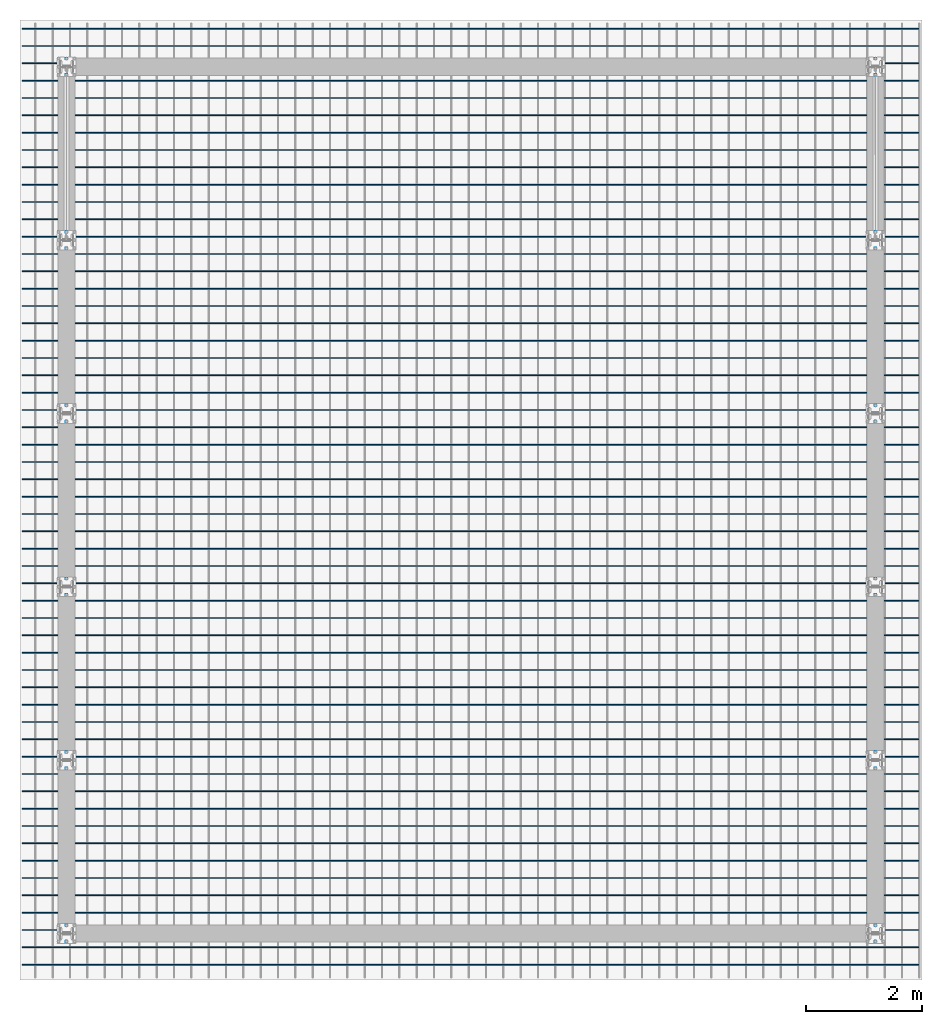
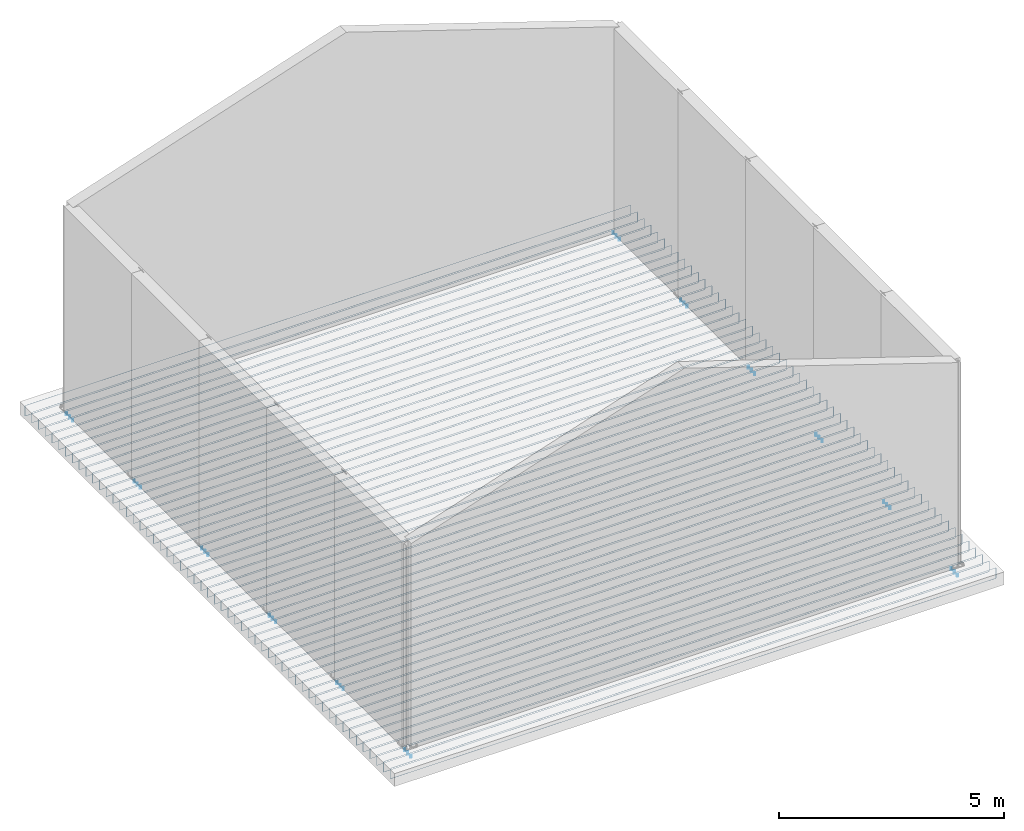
# One storey, part 5 of 29: 2 reinforcing bars.
"""IFC4 building model written with IfcOpenShell, lengths in metres."""

from ifc_helpers import new_model, entity, si_unit, origin_with_axes, place, context, project, spatial, source, transform, mapped, element, save


model = new_model("IFC4")

# Units and contexts
model_context = context("Model", 3, precision=1e-05, world=origin_with_axes())
ifc_project = project(units=[si_unit("LENGTHUNIT", "METRE"), si_unit("AREAUNIT", "SQUARE_METRE"), si_unit("VOLUMEUNIT", "CUBIC_METRE"), si_unit("MASSUNIT", "GRAM", prefix="KILO"), si_unit("TIMEUNIT", "SECOND"), si_unit("PLANEANGLEUNIT", "RADIAN"), si_unit("SOLIDANGLEUNIT", "STERADIAN"), si_unit("THERMODYNAMICTEMPERATUREUNIT", "DEGREE_CELSIUS")], contexts=[model_context])

# Site, building, storey
placement_1 = place(None, origin_with_axes())
site = spatial("IfcSite", under=ifc_project, at=placement_1, Name="Italia", CompositionType="ELEMENT")
building = spatial("IfcBuilding", under=site, at=placement_1, Name="Capannone", CompositionType="ELEMENT")
storey = spatial("IfcBuildingStorey", under=building, at=placement_1, Name="Storey 0", CompositionType="ELEMENT", Elevation=0.0)

# Reinforcing bars
shared_shape_1 = source(origin_with_axes(), model_context, "Body", "AdvancedSweptSolid", [
    entity("IfcSweptDiskSolid", entity("IfcIndexedPolyCurve", entity("IfcCartesianPointList3D", [[0.00300003, -0.14, -0.243], [0.00300002, -0.14, -0.177]]), [entity("IfcLineIndex", [1, 2])], False), 0.011),
])
placement_2 = place(placement_1, origin_with_axes())
reinforcing_bar_1_placement = place(placement_2, origin_with_axes())
element("IfcReinforcingBar", 1, at=reinforcing_bar_1_placement, inside=storey, BarLength=0.066, CrossSectionArea=0.00038013, NominalDiameter=0.022, context=model_context, shape_type="MappedRepresentation", body=[
    mapped(shared_shape_1, transform((0.0, 6.0, 0.0), x_axis=(1.0, 0.0, 0.0), y_axis=(0.0, 1.0, 0.0), z_axis=(0.0, 0.0, 1.0), scale=1.0)),
    mapped(shared_shape_1, transform((13.994, 3.28, 0.0), x_axis=(1.0, 0.0, 0.0), y_axis=(0.0, 1.0, 0.0), z_axis=(0.0, 0.0, 1.0), scale=1.0)),
    mapped(shared_shape_1, transform((13.994, 3.14, 0.0), x_axis=(1.0, 0.0, 0.0), y_axis=(0.0, 1.0, 0.0), z_axis=(0.0, 0.0, 1.0), scale=1.0)),
    mapped(shared_shape_1, transform((-0.00299999, 6.132, 0.0), x_axis=(1.0, 0.0, 0.0), y_axis=(0.0, 1.0, 0.0), z_axis=(0.0, 0.0, 1.0), scale=1.0)),
    mapped(shared_shape_1, transform((0.0, 6.28, 0.0), x_axis=(1.0, 0.0, 0.0), y_axis=(0.0, 1.0, 0.0), z_axis=(0.0, 0.0, 1.0), scale=1.0)),
    mapped(shared_shape_1, transform((0.0, 6.14, 0.0), x_axis=(1.0, 0.0, 0.0), y_axis=(0.0, 1.0, 0.0), z_axis=(0.0, 0.0, 1.0), scale=1.0)),
    mapped(shared_shape_1, transform((14.0, 3.28, 0.0), x_axis=(1.0, 0.0, 0.0), y_axis=(0.0, 1.0, 0.0), z_axis=(0.0, 0.0, 1.0), scale=1.0)),
    mapped(shared_shape_1, transform((14.0, 3.14, 0.0), x_axis=(1.0, 0.0, 0.0), y_axis=(0.0, 1.0, 0.0), z_axis=(0.0, 0.0, 1.0), scale=1.0)),
    mapped(shared_shape_1, transform((14.0, 3.0, 0.0), x_axis=(1.0, 0.0, 0.0), y_axis=(0.0, 1.0, 0.0), z_axis=(0.0, 0.0, 1.0), scale=1.0)),
    mapped(shared_shape_1, transform((13.994, 3.0, 0.0), x_axis=(1.0, 0.0, 0.0), y_axis=(0.0, 1.0, 0.0), z_axis=(0.0, 0.0, 1.0), scale=1.0)),
    mapped(shared_shape_1, transform((13.997, 3.148, 0.0), x_axis=(1.0, 0.0, 0.0), y_axis=(0.0, 1.0, 0.0), z_axis=(0.0, 0.0, 1.0), scale=1.0)),
    mapped(shared_shape_1, transform((13.997, 3.132, 0.0), x_axis=(1.0, 0.0, 0.0), y_axis=(0.0, 1.0, 0.0), z_axis=(0.0, 0.0, 1.0), scale=1.0)),
    mapped(shared_shape_1, transform((13.997, 6.148, 0.0), x_axis=(1.0, 0.0, 0.0), y_axis=(0.0, 1.0, 0.0), z_axis=(0.0, 0.0, 1.0), scale=1.0)),
    mapped(shared_shape_1, transform((13.997, 6.132, 0.0), x_axis=(1.0, 0.0, 0.0), y_axis=(0.0, 1.0, 0.0), z_axis=(0.0, 0.0, 1.0), scale=1.0)),
    mapped(shared_shape_1, transform((14.0, 6.28, 0.0), x_axis=(1.0, 0.0, 0.0), y_axis=(0.0, 1.0, 0.0), z_axis=(0.0, 0.0, 1.0), scale=1.0)),
    mapped(shared_shape_1, transform((13.994, 6.28, 0.0), x_axis=(1.0, 0.0, 0.0), y_axis=(0.0, 1.0, 0.0), z_axis=(0.0, 0.0, 1.0), scale=1.0)),
    mapped(shared_shape_1, transform((13.994, 6.14, 0.0), x_axis=(1.0, 0.0, 0.0), y_axis=(0.0, 1.0, 0.0), z_axis=(0.0, 0.0, 1.0), scale=1.0)),
    mapped(shared_shape_1, transform((13.994, 6.0, 0.0), x_axis=(1.0, 0.0, 0.0), y_axis=(0.0, 1.0, 0.0), z_axis=(0.0, 0.0, 1.0), scale=1.0)),
    mapped(shared_shape_1, transform((-0.00599998, 6.14, 0.0), x_axis=(1.0, 0.0, 0.0), y_axis=(0.0, 1.0, 0.0), z_axis=(0.0, 0.0, 1.0), scale=1.0)),
    mapped(shared_shape_1, transform((-0.00599998, 6.0, 0.0), x_axis=(1.0, 0.0, 0.0), y_axis=(0.0, 1.0, 0.0), z_axis=(0.0, 0.0, 1.0), scale=1.0)),
    mapped(shared_shape_1, transform((-0.00299999, 6.148, 0.0), x_axis=(1.0, 0.0, 0.0), y_axis=(0.0, 1.0, 0.0), z_axis=(0.0, 0.0, 1.0), scale=1.0)),
    mapped(shared_shape_1, transform((14.0, 6.14, 0.0), x_axis=(1.0, 0.0, 0.0), y_axis=(0.0, 1.0, 0.0), z_axis=(0.0, 0.0, 1.0), scale=1.0)),
    mapped(shared_shape_1, transform((14.0, 6.0, 0.0), x_axis=(1.0, 0.0, 0.0), y_axis=(0.0, 1.0, 0.0), z_axis=(0.0, 0.0, 1.0), scale=1.0)),
    mapped(shared_shape_1, transform((-0.00599998, 6.28, 0.0), x_axis=(1.0, 0.0, 0.0), y_axis=(0.0, 1.0, 0.0), z_axis=(0.0, 0.0, 1.0), scale=1.0)),
    mapped(shared_shape_1, transform((14.0, 0.0, 0.0), x_axis=(1.0, 0.0, 0.0), y_axis=(0.0, 1.0, 0.0), z_axis=(0.0, 0.0, 1.0), scale=1.0)),
    mapped(shared_shape_1, transform((-0.00599998, 0.28, 0.0), x_axis=(1.0, 0.0, 0.0), y_axis=(0.0, 1.0, 0.0), z_axis=(0.0, 0.0, 1.0), scale=1.0)),
    mapped(shared_shape_1, transform((-0.00599998, 0.14, 0.0), x_axis=(1.0, 0.0, 0.0), y_axis=(0.0, 1.0, 0.0), z_axis=(0.0, 0.0, 1.0), scale=1.0)),
    mapped(shared_shape_1, transform((13.997, 0.132, 0.0), x_axis=(1.0, 0.0, 0.0), y_axis=(0.0, 1.0, 0.0), z_axis=(0.0, 0.0, 1.0), scale=1.0)),
    mapped(shared_shape_1, transform((14.0, 0.28, 0.0), x_axis=(1.0, 0.0, 0.0), y_axis=(0.0, 1.0, 0.0), z_axis=(0.0, 0.0, 1.0), scale=1.0)),
    mapped(shared_shape_1, transform((14.0, 0.14, 0.0), x_axis=(1.0, 0.0, 0.0), y_axis=(0.0, 1.0, 0.0), z_axis=(0.0, 0.0, 1.0), scale=1.0)),
    mapped(shared_shape_1, transform((0.0, 0.28, 0.0), x_axis=(1.0, 0.0, 0.0), y_axis=(0.0, 1.0, 0.0), z_axis=(0.0, 0.0, 1.0), scale=1.0)),
    mapped(shared_shape_1, transform((0.0, 0.14, 0.0), x_axis=(1.0, 0.0, 0.0), y_axis=(0.0, 1.0, 0.0), z_axis=(0.0, 0.0, 1.0), scale=1.0)),
    mapped(shared_shape_1, transform((0.0, 0.0, 0.0), x_axis=(1.0, 0.0, 0.0), y_axis=(0.0, 1.0, 0.0), z_axis=(0.0, 0.0, 1.0), scale=1.0)),
    mapped(shared_shape_1, transform((-0.00599998, 0.0, 0.0), x_axis=(1.0, 0.0, 0.0), y_axis=(0.0, 1.0, 0.0), z_axis=(0.0, 0.0, 1.0), scale=1.0)),
    mapped(shared_shape_1, transform((-0.00299999, 0.148, 0.0), x_axis=(1.0, 0.0, 0.0), y_axis=(0.0, 1.0, 0.0), z_axis=(0.0, 0.0, 1.0), scale=1.0)),
    mapped(shared_shape_1, transform((-0.00299999, 0.132, 0.0), x_axis=(1.0, 0.0, 0.0), y_axis=(0.0, 1.0, 0.0), z_axis=(0.0, 0.0, 1.0), scale=1.0)),
    mapped(shared_shape_1, transform((-0.00299999, 3.148, 0.0), x_axis=(1.0, 0.0, 0.0), y_axis=(0.0, 1.0, 0.0), z_axis=(0.0, 0.0, 1.0), scale=1.0)),
    mapped(shared_shape_1, transform((-0.00299999, 3.132, 0.0), x_axis=(1.0, 0.0, 0.0), y_axis=(0.0, 1.0, 0.0), z_axis=(0.0, 0.0, 1.0), scale=1.0)),
    mapped(shared_shape_1, transform((0.0, 3.28, 0.0), x_axis=(1.0, 0.0, 0.0), y_axis=(0.0, 1.0, 0.0), z_axis=(0.0, 0.0, 1.0), scale=1.0)),
    mapped(shared_shape_1, transform((-0.00599998, 3.28, 0.0), x_axis=(1.0, 0.0, 0.0), y_axis=(0.0, 1.0, 0.0), z_axis=(0.0, 0.0, 1.0), scale=1.0)),
    mapped(shared_shape_1, transform((-0.00599998, 3.14, 0.0), x_axis=(1.0, 0.0, 0.0), y_axis=(0.0, 1.0, 0.0), z_axis=(0.0, 0.0, 1.0), scale=1.0)),
    mapped(shared_shape_1, transform((-0.00599998, 3.0, 0.0), x_axis=(1.0, 0.0, 0.0), y_axis=(0.0, 1.0, 0.0), z_axis=(0.0, 0.0, 1.0), scale=1.0)),
    mapped(shared_shape_1, transform((13.994, 0.14, 0.0), x_axis=(1.0, 0.0, 0.0), y_axis=(0.0, 1.0, 0.0), z_axis=(0.0, 0.0, 1.0), scale=1.0)),
    mapped(shared_shape_1, transform((13.994, 0.0, 0.0), x_axis=(1.0, 0.0, 0.0), y_axis=(0.0, 1.0, 0.0), z_axis=(0.0, 0.0, 1.0), scale=1.0)),
    mapped(shared_shape_1, transform((13.997, 0.148, 0.0), x_axis=(1.0, 0.0, 0.0), y_axis=(0.0, 1.0, 0.0), z_axis=(0.0, 0.0, 1.0), scale=1.0)),
    mapped(shared_shape_1, transform((0.0, 3.14, 0.0), x_axis=(1.0, 0.0, 0.0), y_axis=(0.0, 1.0, 0.0), z_axis=(0.0, 0.0, 1.0), scale=1.0)),
    mapped(shared_shape_1, transform((0.0, 3.0, 0.0), x_axis=(1.0, 0.0, 0.0), y_axis=(0.0, 1.0, 0.0), z_axis=(0.0, 0.0, 1.0), scale=1.0)),
    mapped(shared_shape_1, transform((13.994, 0.28, 0.0), x_axis=(1.0, 0.0, 0.0), y_axis=(0.0, 1.0, 0.0), z_axis=(0.0, 0.0, 1.0), scale=1.0)),
    mapped(shared_shape_1, transform((0.0, 15.0, 0.0), x_axis=(1.0, 0.0, 0.0), y_axis=(0.0, 1.0, 0.0), z_axis=(0.0, 0.0, 1.0), scale=1.0)),
    mapped(shared_shape_1, transform((13.994, 12.28, 0.0), x_axis=(1.0, 0.0, 0.0), y_axis=(0.0, 1.0, 0.0), z_axis=(0.0, 0.0, 1.0), scale=1.0)),
    mapped(shared_shape_1, transform((13.994, 12.14, 0.0), x_axis=(1.0, 0.0, 0.0), y_axis=(0.0, 1.0, 0.0), z_axis=(0.0, 0.0, 1.0), scale=1.0)),
    mapped(shared_shape_1, transform((-0.00299999, 15.132, 0.0), x_axis=(1.0, 0.0, 0.0), y_axis=(0.0, 1.0, 0.0), z_axis=(0.0, 0.0, 1.0), scale=1.0)),
    mapped(shared_shape_1, transform((0.0, 15.28, 0.0), x_axis=(1.0, 0.0, 0.0), y_axis=(0.0, 1.0, 0.0), z_axis=(0.0, 0.0, 1.0), scale=1.0)),
    mapped(shared_shape_1, transform((0.0, 15.14, 0.0), x_axis=(1.0, 0.0, 0.0), y_axis=(0.0, 1.0, 0.0), z_axis=(0.0, 0.0, 1.0), scale=1.0)),
    mapped(shared_shape_1, transform((14.0, 12.28, 0.0), x_axis=(1.0, 0.0, 0.0), y_axis=(0.0, 1.0, 0.0), z_axis=(0.0, 0.0, 1.0), scale=1.0)),
    mapped(shared_shape_1, transform((14.0, 12.14, 0.0), x_axis=(1.0, 0.0, 0.0), y_axis=(0.0, 1.0, 0.0), z_axis=(0.0, 0.0, 1.0), scale=1.0)),
    mapped(shared_shape_1, transform((14.0, 12.0, 0.0), x_axis=(1.0, 0.0, 0.0), y_axis=(0.0, 1.0, 0.0), z_axis=(0.0, 0.0, 1.0), scale=1.0)),
    mapped(shared_shape_1, transform((13.994, 12.0, 0.0), x_axis=(1.0, 0.0, 0.0), y_axis=(0.0, 1.0, 0.0), z_axis=(0.0, 0.0, 1.0), scale=1.0)),
    mapped(shared_shape_1, transform((13.997, 12.148, 0.0), x_axis=(1.0, 0.0, 0.0), y_axis=(0.0, 1.0, 0.0), z_axis=(0.0, 0.0, 1.0), scale=1.0)),
    mapped(shared_shape_1, transform((13.997, 12.132, 0.0), x_axis=(1.0, 0.0, 0.0), y_axis=(0.0, 1.0, 0.0), z_axis=(0.0, 0.0, 1.0), scale=1.0)),
    mapped(shared_shape_1, transform((13.997, 15.148, 0.0), x_axis=(1.0, 0.0, 0.0), y_axis=(0.0, 1.0, 0.0), z_axis=(0.0, 0.0, 1.0), scale=1.0)),
    mapped(shared_shape_1, transform((13.997, 15.132, 0.0), x_axis=(1.0, 0.0, 0.0), y_axis=(0.0, 1.0, 0.0), z_axis=(0.0, 0.0, 1.0), scale=1.0)),
    mapped(shared_shape_1, transform((14.0, 15.28, 0.0), x_axis=(1.0, 0.0, 0.0), y_axis=(0.0, 1.0, 0.0), z_axis=(0.0, 0.0, 1.0), scale=1.0)),
    mapped(shared_shape_1, transform((13.994, 15.28, 0.0), x_axis=(1.0, 0.0, 0.0), y_axis=(0.0, 1.0, 0.0), z_axis=(0.0, 0.0, 1.0), scale=1.0)),
    mapped(shared_shape_1, transform((13.994, 15.14, 0.0), x_axis=(1.0, 0.0, 0.0), y_axis=(0.0, 1.0, 0.0), z_axis=(0.0, 0.0, 1.0), scale=1.0)),
    mapped(shared_shape_1, transform((13.994, 15.0, 0.0), x_axis=(1.0, 0.0, 0.0), y_axis=(0.0, 1.0, 0.0), z_axis=(0.0, 0.0, 1.0), scale=1.0)),
    mapped(shared_shape_1, transform((-0.00599998, 15.14, 0.0), x_axis=(1.0, 0.0, 0.0), y_axis=(0.0, 1.0, 0.0), z_axis=(0.0, 0.0, 1.0), scale=1.0)),
    mapped(shared_shape_1, transform((-0.00599998, 15.0, 0.0), x_axis=(1.0, 0.0, 0.0), y_axis=(0.0, 1.0, 0.0), z_axis=(0.0, 0.0, 1.0), scale=1.0)),
    mapped(shared_shape_1, transform((-0.00299999, 15.148, 0.0), x_axis=(1.0, 0.0, 0.0), y_axis=(0.0, 1.0, 0.0), z_axis=(0.0, 0.0, 1.0), scale=1.0)),
    mapped(shared_shape_1, transform((14.0, 15.14, 0.0), x_axis=(1.0, 0.0, 0.0), y_axis=(0.0, 1.0, 0.0), z_axis=(0.0, 0.0, 1.0), scale=1.0)),
    mapped(shared_shape_1, transform((14.0, 15.0, 0.0), x_axis=(1.0, 0.0, 0.0), y_axis=(0.0, 1.0, 0.0), z_axis=(0.0, 0.0, 1.0), scale=1.0)),
    mapped(shared_shape_1, transform((-0.00599998, 15.28, 0.0), x_axis=(1.0, 0.0, 0.0), y_axis=(0.0, 1.0, 0.0), z_axis=(0.0, 0.0, 1.0), scale=1.0)),
    mapped(shared_shape_1, transform((14.0, 9.0, 0.0), x_axis=(1.0, 0.0, 0.0), y_axis=(0.0, 1.0, 0.0), z_axis=(0.0, 0.0, 1.0), scale=1.0)),
    mapped(shared_shape_1, transform((-0.00599998, 9.28, 0.0), x_axis=(1.0, 0.0, 0.0), y_axis=(0.0, 1.0, 0.0), z_axis=(0.0, 0.0, 1.0), scale=1.0)),
    mapped(shared_shape_1, transform((-0.00599998, 9.14, 0.0), x_axis=(1.0, 0.0, 0.0), y_axis=(0.0, 1.0, 0.0), z_axis=(0.0, 0.0, 1.0), scale=1.0)),
    mapped(shared_shape_1, transform((13.997, 9.132, 0.0), x_axis=(1.0, 0.0, 0.0), y_axis=(0.0, 1.0, 0.0), z_axis=(0.0, 0.0, 1.0), scale=1.0)),
    mapped(shared_shape_1, transform((14.0, 9.28, 0.0), x_axis=(1.0, 0.0, 0.0), y_axis=(0.0, 1.0, 0.0), z_axis=(0.0, 0.0, 1.0), scale=1.0)),
    mapped(shared_shape_1, transform((14.0, 9.14, 0.0), x_axis=(1.0, 0.0, 0.0), y_axis=(0.0, 1.0, 0.0), z_axis=(0.0, 0.0, 1.0), scale=1.0)),
    mapped(shared_shape_1, transform((0.0, 9.28, 0.0), x_axis=(1.0, 0.0, 0.0), y_axis=(0.0, 1.0, 0.0), z_axis=(0.0, 0.0, 1.0), scale=1.0)),
    mapped(shared_shape_1, transform((0.0, 9.14, 0.0), x_axis=(1.0, 0.0, 0.0), y_axis=(0.0, 1.0, 0.0), z_axis=(0.0, 0.0, 1.0), scale=1.0)),
    mapped(shared_shape_1, transform((0.0, 9.0, 0.0), x_axis=(1.0, 0.0, 0.0), y_axis=(0.0, 1.0, 0.0), z_axis=(0.0, 0.0, 1.0), scale=1.0)),
    mapped(shared_shape_1, transform((-0.00599998, 9.0, 0.0), x_axis=(1.0, 0.0, 0.0), y_axis=(0.0, 1.0, 0.0), z_axis=(0.0, 0.0, 1.0), scale=1.0)),
    mapped(shared_shape_1, transform((-0.00299999, 9.148, 0.0), x_axis=(1.0, 0.0, 0.0), y_axis=(0.0, 1.0, 0.0), z_axis=(0.0, 0.0, 1.0), scale=1.0)),
    mapped(shared_shape_1, transform((-0.00299999, 9.132, 0.0), x_axis=(1.0, 0.0, 0.0), y_axis=(0.0, 1.0, 0.0), z_axis=(0.0, 0.0, 1.0), scale=1.0)),
    mapped(shared_shape_1, transform((-0.00299999, 12.148, 0.0), x_axis=(1.0, 0.0, 0.0), y_axis=(0.0, 1.0, 0.0), z_axis=(0.0, 0.0, 1.0), scale=1.0)),
    mapped(shared_shape_1, transform((-0.00299999, 12.132, 0.0), x_axis=(1.0, 0.0, 0.0), y_axis=(0.0, 1.0, 0.0), z_axis=(0.0, 0.0, 1.0), scale=1.0)),
    mapped(shared_shape_1, transform((0.0, 12.28, 0.0), x_axis=(1.0, 0.0, 0.0), y_axis=(0.0, 1.0, 0.0), z_axis=(0.0, 0.0, 1.0), scale=1.0)),
    mapped(shared_shape_1, transform((-0.00599998, 12.28, 0.0), x_axis=(1.0, 0.0, 0.0), y_axis=(0.0, 1.0, 0.0), z_axis=(0.0, 0.0, 1.0), scale=1.0)),
    mapped(shared_shape_1, transform((-0.00599998, 12.14, 0.0), x_axis=(1.0, 0.0, 0.0), y_axis=(0.0, 1.0, 0.0), z_axis=(0.0, 0.0, 1.0), scale=1.0)),
    mapped(shared_shape_1, transform((-0.00599998, 12.0, 0.0), x_axis=(1.0, 0.0, 0.0), y_axis=(0.0, 1.0, 0.0), z_axis=(0.0, 0.0, 1.0), scale=1.0)),
    mapped(shared_shape_1, transform((13.994, 9.14, 0.0), x_axis=(1.0, 0.0, 0.0), y_axis=(0.0, 1.0, 0.0), z_axis=(0.0, 0.0, 1.0), scale=1.0)),
    mapped(shared_shape_1, transform((13.994, 9.0, 0.0), x_axis=(1.0, 0.0, 0.0), y_axis=(0.0, 1.0, 0.0), z_axis=(0.0, 0.0, 1.0), scale=1.0)),
    mapped(shared_shape_1, transform((13.997, 9.148, 0.0), x_axis=(1.0, 0.0, 0.0), y_axis=(0.0, 1.0, 0.0), z_axis=(0.0, 0.0, 1.0), scale=1.0)),
    mapped(shared_shape_1, transform((0.0, 12.14, 0.0), x_axis=(1.0, 0.0, 0.0), y_axis=(0.0, 1.0, 0.0), z_axis=(0.0, 0.0, 1.0), scale=1.0)),
    mapped(shared_shape_1, transform((0.0, 12.0, 0.0), x_axis=(1.0, 0.0, 0.0), y_axis=(0.0, 1.0, 0.0), z_axis=(0.0, 0.0, 1.0), scale=1.0)),
    mapped(shared_shape_1, transform((13.994, 9.28, 0.0), x_axis=(1.0, 0.0, 0.0), y_axis=(0.0, 1.0, 0.0), z_axis=(0.0, 0.0, 1.0), scale=1.0)),
])
shared_shape_2 = source(origin_with_axes(), model_context, "Body", "AdvancedSweptSolid", [
    entity("IfcSweptDiskSolid", entity("IfcIndexedPolyCurve", entity("IfcCartesianPointList3D", [[-0.763, -0.546, -0.296], [-0.763, -0.546, -0.04], [-0.762239, -0.546, -0.0361732], [-0.760071, -0.546, -0.0329289], [-0.756827, -0.546, -0.0307612], [-0.753, -0.546, -0.03], [14.741, -0.546, -0.03], [14.7448, -0.546, -0.0307612], [14.7481, -0.546, -0.0329289], [14.7502, -0.546, -0.0361732], [14.751, -0.546, -0.04], [14.751, -0.546, -0.296]]), [entity("IfcLineIndex", [1, 2]), entity("IfcLineIndex", [2, 3]), entity("IfcLineIndex", [3, 4]), entity("IfcLineIndex", [4, 5]), entity("IfcLineIndex", [5, 6]), entity("IfcLineIndex", [6, 7]), entity("IfcLineIndex", [7, 8]), entity("IfcLineIndex", [8, 9]), entity("IfcLineIndex", [9, 10]), entity("IfcLineIndex", [10, 11]), entity("IfcLineIndex", [11, 12])], False), 0.006),
])
reinforcing_bar_2_placement = place(placement_2, origin_with_axes())
element("IfcReinforcingBar", 2, at=reinforcing_bar_2_placement, inside=storey, BarLength=16.0372, CrossSectionArea=0.0001131, NominalDiameter=0.012, context=model_context, shape_type="MappedRepresentation", body=[
    mapped(shared_shape_2, transform((0.0, 9.3, 0.0), x_axis=(1.0, 0.0, 0.0), y_axis=(0.0, 1.0, 0.0), z_axis=(0.0, 0.0, 1.0), scale=1.0)),
    mapped(shared_shape_2, transform((0.0, 9.0, 0.0), x_axis=(1.0, 0.0, 0.0), y_axis=(0.0, 1.0, 0.0), z_axis=(0.0, 0.0, 1.0), scale=1.0)),
    mapped(shared_shape_2, transform((0.0, 15.9, 0.0), x_axis=(1.0, 0.0, 0.0), y_axis=(0.0, 1.0, 0.0), z_axis=(0.0, 0.0, 1.0), scale=1.0)),
    mapped(shared_shape_2, transform((0.0, 8.4, 0.0), x_axis=(1.0, 0.0, 0.0), y_axis=(0.0, 1.0, 0.0), z_axis=(0.0, 0.0, 1.0), scale=1.0)),
    mapped(shared_shape_2, transform((0.0, 16.2, 0.0), x_axis=(1.0, 0.0, 0.0), y_axis=(0.0, 1.0, 0.0), z_axis=(0.0, 0.0, 1.0), scale=1.0)),
    mapped(shared_shape_2, transform((0.0, 8.7, 0.0), x_axis=(1.0, 0.0, 0.0), y_axis=(0.0, 1.0, 0.0), z_axis=(0.0, 0.0, 1.0), scale=1.0)),
    mapped(shared_shape_2, transform((0.0, 11.4, 0.0), x_axis=(1.0, 0.0, 0.0), y_axis=(0.0, 1.0, 0.0), z_axis=(0.0, 0.0, 1.0), scale=1.0)),
    mapped(shared_shape_2, transform((0.0, 11.1, 0.0), x_axis=(1.0, 0.0, 0.0), y_axis=(0.0, 1.0, 0.0), z_axis=(0.0, 0.0, 1.0), scale=1.0)),
    mapped(shared_shape_2, transform((0.0, 9.9, 0.0), x_axis=(1.0, 0.0, 0.0), y_axis=(0.0, 1.0, 0.0), z_axis=(0.0, 0.0, 1.0), scale=1.0)),
    mapped(shared_shape_2, transform((0.0, 10.5, 0.0), x_axis=(1.0, 0.0, 0.0), y_axis=(0.0, 1.0, 0.0), z_axis=(0.0, 0.0, 1.0), scale=1.0)),
    mapped(shared_shape_2, transform((0.0, 10.2, 0.0), x_axis=(1.0, 0.0, 0.0), y_axis=(0.0, 1.0, 0.0), z_axis=(0.0, 0.0, 1.0), scale=1.0)),
    mapped(shared_shape_2, transform((0.0, 10.8, 0.0), x_axis=(1.0, 0.0, 0.0), y_axis=(0.0, 1.0, 0.0), z_axis=(0.0, 0.0, 1.0), scale=1.0)),
    mapped(shared_shape_2, transform((0.0, 9.6, 0.0), x_axis=(1.0, 0.0, 0.0), y_axis=(0.0, 1.0, 0.0), z_axis=(0.0, 0.0, 1.0), scale=1.0)),
    mapped(shared_shape_2, transform((0.0, 13.2, 0.0), x_axis=(1.0, 0.0, 0.0), y_axis=(0.0, 1.0, 0.0), z_axis=(0.0, 0.0, 1.0), scale=1.0)),
    mapped(shared_shape_2, transform((0.0, 12.0, 0.0), x_axis=(1.0, 0.0, 0.0), y_axis=(0.0, 1.0, 0.0), z_axis=(0.0, 0.0, 1.0), scale=1.0)),
    mapped(shared_shape_2, transform((0.0, 12.6, 0.0), x_axis=(1.0, 0.0, 0.0), y_axis=(0.0, 1.0, 0.0), z_axis=(0.0, 0.0, 1.0), scale=1.0)),
    mapped(shared_shape_2, transform((0.0, 12.3, 0.0), x_axis=(1.0, 0.0, 0.0), y_axis=(0.0, 1.0, 0.0), z_axis=(0.0, 0.0, 1.0), scale=1.0)),
    mapped(shared_shape_2, transform((0.0, 12.9, 0.0), x_axis=(1.0, 0.0, 0.0), y_axis=(0.0, 1.0, 0.0), z_axis=(0.0, 0.0, 1.0), scale=1.0)),
    mapped(shared_shape_2, transform((0.0, 11.7, 0.0), x_axis=(1.0, 0.0, 0.0), y_axis=(0.0, 1.0, 0.0), z_axis=(0.0, 0.0, 1.0), scale=1.0)),
    mapped(shared_shape_2, transform((0.0, 15.3, 0.0), x_axis=(1.0, 0.0, 0.0), y_axis=(0.0, 1.0, 0.0), z_axis=(0.0, 0.0, 1.0), scale=1.0)),
    mapped(shared_shape_2, transform((0.0, 14.1, 0.0), x_axis=(1.0, 0.0, 0.0), y_axis=(0.0, 1.0, 0.0), z_axis=(0.0, 0.0, 1.0), scale=1.0)),
    mapped(shared_shape_2, transform((0.0, 14.7, 0.0), x_axis=(1.0, 0.0, 0.0), y_axis=(0.0, 1.0, 0.0), z_axis=(0.0, 0.0, 1.0), scale=1.0)),
    mapped(shared_shape_2, transform((0.0, 14.4, 0.0), x_axis=(1.0, 0.0, 0.0), y_axis=(0.0, 1.0, 0.0), z_axis=(0.0, 0.0, 1.0), scale=1.0)),
    mapped(shared_shape_2, transform((0.0, 15.0, 0.0), x_axis=(1.0, 0.0, 0.0), y_axis=(0.0, 1.0, 0.0), z_axis=(0.0, 0.0, 1.0), scale=1.0)),
    mapped(shared_shape_2, transform((0.0, 13.8, 0.0), x_axis=(1.0, 0.0, 0.0), y_axis=(0.0, 1.0, 0.0), z_axis=(0.0, 0.0, 1.0), scale=1.0)),
    mapped(shared_shape_2, transform((0.0, 13.5, 0.0), x_axis=(1.0, 0.0, 0.0), y_axis=(0.0, 1.0, 0.0), z_axis=(0.0, 0.0, 1.0), scale=1.0)),
    mapped(shared_shape_2, transform((0.0, 8.1, 0.0), x_axis=(1.0, 0.0, 0.0), y_axis=(0.0, 1.0, 0.0), z_axis=(0.0, 0.0, 1.0), scale=1.0)),
    mapped(shared_shape_2, transform((0.0, 0.6, 0.0), x_axis=(1.0, 0.0, 0.0), y_axis=(0.0, 1.0, 0.0), z_axis=(0.0, 0.0, 1.0), scale=1.0)),
    mapped(shared_shape_2, transform((0.0, 0.3, 0.0), x_axis=(1.0, 0.0, 0.0), y_axis=(0.0, 1.0, 0.0), z_axis=(0.0, 0.0, 1.0), scale=1.0)),
    mapped(shared_shape_2, transform((0.0, 0.9, 0.0), x_axis=(1.0, 0.0, 0.0), y_axis=(0.0, 1.0, 0.0), z_axis=(0.0, 0.0, 1.0), scale=1.0)),
    mapped(shared_shape_2, transform((0.0, 7.8, 0.0), x_axis=(1.0, 0.0, 0.0), y_axis=(0.0, 1.0, 0.0), z_axis=(0.0, 0.0, 1.0), scale=1.0)),
    mapped(shared_shape_2, transform((0.0, 15.6, 0.0), x_axis=(1.0, 0.0, 0.0), y_axis=(0.0, 1.0, 0.0), z_axis=(0.0, 0.0, 1.0), scale=1.0)),
    mapped(shared_shape_2, transform((0.0, 2.1, 0.0), x_axis=(1.0, 0.0, 0.0), y_axis=(0.0, 1.0, 0.0), z_axis=(0.0, 0.0, 1.0), scale=1.0)),
    mapped(shared_shape_2, transform((0.0, 2.7, 0.0), x_axis=(1.0, 0.0, 0.0), y_axis=(0.0, 1.0, 0.0), z_axis=(0.0, 0.0, 1.0), scale=1.0)),
    mapped(shared_shape_2, transform((0.0, 2.4, 0.0), x_axis=(1.0, 0.0, 0.0), y_axis=(0.0, 1.0, 0.0), z_axis=(0.0, 0.0, 1.0), scale=1.0)),
    mapped(shared_shape_2, transform((0.0, 3.0, 0.0), x_axis=(1.0, 0.0, 0.0), y_axis=(0.0, 1.0, 0.0), z_axis=(0.0, 0.0, 1.0), scale=1.0)),
    mapped(shared_shape_2, transform((0.0, 1.8, 0.0), x_axis=(1.0, 0.0, 0.0), y_axis=(0.0, 1.0, 0.0), z_axis=(0.0, 0.0, 1.0), scale=1.0)),
    mapped(shared_shape_2, transform((0.0, 1.5, 0.0), x_axis=(1.0, 0.0, 0.0), y_axis=(0.0, 1.0, 0.0), z_axis=(0.0, 0.0, 1.0), scale=1.0)),
    mapped(shared_shape_2, transform((0.0, 4.2, 0.0), x_axis=(1.0, 0.0, 0.0), y_axis=(0.0, 1.0, 0.0), z_axis=(0.0, 0.0, 1.0), scale=1.0)),
    mapped(shared_shape_2, transform((0.0, 4.8, 0.0), x_axis=(1.0, 0.0, 0.0), y_axis=(0.0, 1.0, 0.0), z_axis=(0.0, 0.0, 1.0), scale=1.0)),
    mapped(shared_shape_2, transform((0.0, 4.5, 0.0), x_axis=(1.0, 0.0, 0.0), y_axis=(0.0, 1.0, 0.0), z_axis=(0.0, 0.0, 1.0), scale=1.0)),
    mapped(shared_shape_2, transform((0.0, 1.2, 0.0), x_axis=(1.0, 0.0, 0.0), y_axis=(0.0, 1.0, 0.0), z_axis=(0.0, 0.0, 1.0), scale=1.0)),
    mapped(shared_shape_2, transform((0.0, 3.9, 0.0), x_axis=(1.0, 0.0, 0.0), y_axis=(0.0, 1.0, 0.0), z_axis=(0.0, 0.0, 1.0), scale=1.0)),
    mapped(shared_shape_2, transform((0.0, 3.6, 0.0), x_axis=(1.0, 0.0, 0.0), y_axis=(0.0, 1.0, 0.0), z_axis=(0.0, 0.0, 1.0), scale=1.0)),
    mapped(shared_shape_2, transform((0.0, 6.3, 0.0), x_axis=(1.0, 0.0, 0.0), y_axis=(0.0, 1.0, 0.0), z_axis=(0.0, 0.0, 1.0), scale=1.0)),
    mapped(shared_shape_2, transform((0.0, 6.9, 0.0), x_axis=(1.0, 0.0, 0.0), y_axis=(0.0, 1.0, 0.0), z_axis=(0.0, 0.0, 1.0), scale=1.0)),
    mapped(shared_shape_2, transform((0.0, 6.6, 0.0), x_axis=(1.0, 0.0, 0.0), y_axis=(0.0, 1.0, 0.0), z_axis=(0.0, 0.0, 1.0), scale=1.0)),
    mapped(shared_shape_2, transform((0.0, 3.3, 0.0), x_axis=(1.0, 0.0, 0.0), y_axis=(0.0, 1.0, 0.0), z_axis=(0.0, 0.0, 1.0), scale=1.0)),
    mapped(shared_shape_2, transform((0.0, 6.0, 0.0), x_axis=(1.0, 0.0, 0.0), y_axis=(0.0, 1.0, 0.0), z_axis=(0.0, 0.0, 1.0), scale=1.0)),
    mapped(shared_shape_2, transform((0.0, 5.7, 0.0), x_axis=(1.0, 0.0, 0.0), y_axis=(0.0, 1.0, 0.0), z_axis=(0.0, 0.0, 1.0), scale=1.0)),
    mapped(shared_shape_2, transform((0.0, 7.62, -0.35), x_axis=(1.0, 0.0, 0.0), y_axis=(0.0, -1.0, 0.0), z_axis=(0.0, 0.0, -1.0), scale=1.0)),
    mapped(shared_shape_2, transform((0.0, 5.1, 0.0), x_axis=(1.0, 0.0, 0.0), y_axis=(0.0, 1.0, 0.0), z_axis=(0.0, 0.0, 1.0), scale=1.0)),
    mapped(shared_shape_2, transform((0.0, 7.92, -0.35), x_axis=(1.0, 0.0, 0.0), y_axis=(0.0, -1.0, 0.0), z_axis=(0.0, 0.0, -1.0), scale=1.0)),
    mapped(shared_shape_2, transform((0.0, 5.4, 0.0), x_axis=(1.0, 0.0, 0.0), y_axis=(0.0, 1.0, 0.0), z_axis=(0.0, 0.0, 1.0), scale=1.0)),
    mapped(shared_shape_2, transform((0.0, 0.0, 0.0), x_axis=(1.0, 0.0, 0.0), y_axis=(0.0, 1.0, 0.0), z_axis=(0.0, 0.0, 1.0), scale=1.0)),
    mapped(shared_shape_2, transform((0.0, 15.12, -0.35), x_axis=(1.0, 0.0, 0.0), y_axis=(0.0, -1.0, 0.0), z_axis=(0.0, 0.0, -1.0), scale=1.0)),
    mapped(shared_shape_2, transform((0.0, 9.72, -0.35), x_axis=(1.0, 0.0, 0.0), y_axis=(0.0, -1.0, 0.0), z_axis=(0.0, 0.0, -1.0), scale=1.0)),
    mapped(shared_shape_2, transform((0.0, 7.2, 0.0), x_axis=(1.0, 0.0, 0.0), y_axis=(0.0, 1.0, 0.0), z_axis=(0.0, 0.0, 1.0), scale=1.0)),
    mapped(shared_shape_2, transform((0.0, 10.02, -0.35), x_axis=(1.0, 0.0, 0.0), y_axis=(0.0, -1.0, 0.0), z_axis=(0.0, 0.0, -1.0), scale=1.0)),
    mapped(shared_shape_2, transform((0.0, 7.5, 0.0), x_axis=(1.0, 0.0, 0.0), y_axis=(0.0, 1.0, 0.0), z_axis=(0.0, 0.0, 1.0), scale=1.0)),
    mapped(shared_shape_2, transform((0.0, 9.42, -0.35), x_axis=(1.0, 0.0, 0.0), y_axis=(0.0, -1.0, 0.0), z_axis=(0.0, 0.0, -1.0), scale=1.0)),
    mapped(shared_shape_2, transform((0.0, 9.12, -0.35), x_axis=(1.0, 0.0, 0.0), y_axis=(0.0, -1.0, 0.0), z_axis=(0.0, 0.0, -1.0), scale=1.0)),
    mapped(shared_shape_2, transform((0.0, 11.82, -0.35), x_axis=(1.0, 0.0, 0.0), y_axis=(0.0, -1.0, 0.0), z_axis=(0.0, 0.0, -1.0), scale=1.0)),
    mapped(shared_shape_2, transform((0.0, 8.52, -0.35), x_axis=(1.0, 0.0, 0.0), y_axis=(0.0, -1.0, 0.0), z_axis=(0.0, 0.0, -1.0), scale=1.0)),
    mapped(shared_shape_2, transform((0.0, 8.22, -0.35), x_axis=(1.0, 0.0, 0.0), y_axis=(0.0, -1.0, 0.0), z_axis=(0.0, 0.0, -1.0), scale=1.0)),
    mapped(shared_shape_2, transform((0.0, 8.82, -0.35), x_axis=(1.0, 0.0, 0.0), y_axis=(0.0, -1.0, 0.0), z_axis=(0.0, 0.0, -1.0), scale=1.0)),
    mapped(shared_shape_2, transform((0.0, 11.52, -0.35), x_axis=(1.0, 0.0, 0.0), y_axis=(0.0, -1.0, 0.0), z_axis=(0.0, 0.0, -1.0), scale=1.0)),
    mapped(shared_shape_2, transform((0.0, 11.22, -0.35), x_axis=(1.0, 0.0, 0.0), y_axis=(0.0, -1.0, 0.0), z_axis=(0.0, 0.0, -1.0), scale=1.0)),
    mapped(shared_shape_2, transform((0.0, 13.92, -0.35), x_axis=(1.0, 0.0, 0.0), y_axis=(0.0, -1.0, 0.0), z_axis=(0.0, 0.0, -1.0), scale=1.0)),
    mapped(shared_shape_2, transform((0.0, 10.62, -0.35), x_axis=(1.0, 0.0, 0.0), y_axis=(0.0, -1.0, 0.0), z_axis=(0.0, 0.0, -1.0), scale=1.0)),
    mapped(shared_shape_2, transform((0.0, 10.32, -0.35), x_axis=(1.0, 0.0, 0.0), y_axis=(0.0, -1.0, 0.0), z_axis=(0.0, 0.0, -1.0), scale=1.0)),
    mapped(shared_shape_2, transform((0.0, 10.92, -0.35), x_axis=(1.0, 0.0, 0.0), y_axis=(0.0, -1.0, 0.0), z_axis=(0.0, 0.0, -1.0), scale=1.0)),
    mapped(shared_shape_2, transform((0.0, 13.62, -0.35), x_axis=(1.0, 0.0, 0.0), y_axis=(0.0, -1.0, 0.0), z_axis=(0.0, 0.0, -1.0), scale=1.0)),
    mapped(shared_shape_2, transform((0.0, 13.32, -0.35), x_axis=(1.0, 0.0, 0.0), y_axis=(0.0, -1.0, 0.0), z_axis=(0.0, 0.0, -1.0), scale=1.0)),
    mapped(shared_shape_2, transform((0.0, 12.12, -0.35), x_axis=(1.0, 0.0, 0.0), y_axis=(0.0, -1.0, 0.0), z_axis=(0.0, 0.0, -1.0), scale=1.0)),
    mapped(shared_shape_2, transform((0.0, 12.72, -0.35), x_axis=(1.0, 0.0, 0.0), y_axis=(0.0, -1.0, 0.0), z_axis=(0.0, 0.0, -1.0), scale=1.0)),
    mapped(shared_shape_2, transform((0.0, 12.42, -0.35), x_axis=(1.0, 0.0, 0.0), y_axis=(0.0, -1.0, 0.0), z_axis=(0.0, 0.0, -1.0), scale=1.0)),
    mapped(shared_shape_2, transform((0.0, 13.02, -0.35), x_axis=(1.0, 0.0, 0.0), y_axis=(0.0, -1.0, 0.0), z_axis=(0.0, 0.0, -1.0), scale=1.0)),
    mapped(shared_shape_2, transform((0.0, -0.48, -0.35), x_axis=(1.0, 0.0, 0.0), y_axis=(0.0, -1.0, 0.0), z_axis=(0.0, 0.0, -1.0), scale=1.0)),
    mapped(shared_shape_2, transform((0.0, 7.32, -0.35), x_axis=(1.0, 0.0, 0.0), y_axis=(0.0, -1.0, 0.0), z_axis=(0.0, 0.0, -1.0), scale=1.0)),
    mapped(shared_shape_2, transform((0.0, 14.22, -0.35), x_axis=(1.0, 0.0, 0.0), y_axis=(0.0, -1.0, 0.0), z_axis=(0.0, 0.0, -1.0), scale=1.0)),
    mapped(shared_shape_2, transform((0.0, 14.82, -0.35), x_axis=(1.0, 0.0, 0.0), y_axis=(0.0, -1.0, 0.0), z_axis=(0.0, 0.0, -1.0), scale=1.0)),
    mapped(shared_shape_2, transform((0.0, 14.52, -0.35), x_axis=(1.0, 0.0, 0.0), y_axis=(0.0, -1.0, 0.0), z_axis=(0.0, 0.0, -1.0), scale=1.0)),
    mapped(shared_shape_2, transform((0.0, 7.02, -0.35), x_axis=(1.0, 0.0, 0.0), y_axis=(0.0, -1.0, 0.0), z_axis=(0.0, 0.0, -1.0), scale=1.0)),
    mapped(shared_shape_2, transform((0.0, 1.62, -0.35), x_axis=(1.0, 0.0, 0.0), y_axis=(0.0, -1.0, 0.0), z_axis=(0.0, 0.0, -1.0), scale=1.0)),
    mapped(shared_shape_2, transform((0.0, 1.32, -0.35), x_axis=(1.0, 0.0, 0.0), y_axis=(0.0, -1.0, 0.0), z_axis=(0.0, 0.0, -1.0), scale=1.0)),
    mapped(shared_shape_2, transform((0.0, 0.12, -0.35), x_axis=(1.0, 0.0, 0.0), y_axis=(0.0, -1.0, 0.0), z_axis=(0.0, 0.0, -1.0), scale=1.0)),
    mapped(shared_shape_2, transform((0.0, 0.72, -0.35), x_axis=(1.0, 0.0, 0.0), y_axis=(0.0, -1.0, 0.0), z_axis=(0.0, 0.0, -1.0), scale=1.0)),
    mapped(shared_shape_2, transform((0.0, 0.42, -0.35), x_axis=(1.0, 0.0, 0.0), y_axis=(0.0, -1.0, 0.0), z_axis=(0.0, 0.0, -1.0), scale=1.0)),
    mapped(shared_shape_2, transform((0.0, 1.02, -0.35), x_axis=(1.0, 0.0, 0.0), y_axis=(0.0, -1.0, 0.0), z_axis=(0.0, 0.0, -1.0), scale=1.0)),
    mapped(shared_shape_2, transform((0.0, -0.18, -0.35), x_axis=(1.0, 0.0, 0.0), y_axis=(0.0, -1.0, 0.0), z_axis=(0.0, 0.0, -1.0), scale=1.0)),
    mapped(shared_shape_2, transform((0.0, 3.42, -0.35), x_axis=(1.0, 0.0, 0.0), y_axis=(0.0, -1.0, 0.0), z_axis=(0.0, 0.0, -1.0), scale=1.0)),
    mapped(shared_shape_2, transform((0.0, 2.22, -0.35), x_axis=(1.0, 0.0, 0.0), y_axis=(0.0, -1.0, 0.0), z_axis=(0.0, 0.0, -1.0), scale=1.0)),
    mapped(shared_shape_2, transform((0.0, 2.82, -0.35), x_axis=(1.0, 0.0, 0.0), y_axis=(0.0, -1.0, 0.0), z_axis=(0.0, 0.0, -1.0), scale=1.0)),
    mapped(shared_shape_2, transform((0.0, 2.52, -0.35), x_axis=(1.0, 0.0, 0.0), y_axis=(0.0, -1.0, 0.0), z_axis=(0.0, 0.0, -1.0), scale=1.0)),
    mapped(shared_shape_2, transform((0.0, 3.12, -0.35), x_axis=(1.0, 0.0, 0.0), y_axis=(0.0, -1.0, 0.0), z_axis=(0.0, 0.0, -1.0), scale=1.0)),
    mapped(shared_shape_2, transform((0.0, 1.92, -0.35), x_axis=(1.0, 0.0, 0.0), y_axis=(0.0, -1.0, 0.0), z_axis=(0.0, 0.0, -1.0), scale=1.0)),
    mapped(shared_shape_2, transform((0.0, 5.52, -0.35), x_axis=(1.0, 0.0, 0.0), y_axis=(0.0, -1.0, 0.0), z_axis=(0.0, 0.0, -1.0), scale=1.0)),
    mapped(shared_shape_2, transform((0.0, 4.32, -0.35), x_axis=(1.0, 0.0, 0.0), y_axis=(0.0, -1.0, 0.0), z_axis=(0.0, 0.0, -1.0), scale=1.0)),
    mapped(shared_shape_2, transform((0.0, 4.92, -0.35), x_axis=(1.0, 0.0, 0.0), y_axis=(0.0, -1.0, 0.0), z_axis=(0.0, 0.0, -1.0), scale=1.0)),
    mapped(shared_shape_2, transform((0.0, 4.62, -0.35), x_axis=(1.0, 0.0, 0.0), y_axis=(0.0, -1.0, 0.0), z_axis=(0.0, 0.0, -1.0), scale=1.0)),
    mapped(shared_shape_2, transform((0.0, 5.22, -0.35), x_axis=(1.0, 0.0, 0.0), y_axis=(0.0, -1.0, 0.0), z_axis=(0.0, 0.0, -1.0), scale=1.0)),
    mapped(shared_shape_2, transform((0.0, 4.02, -0.35), x_axis=(1.0, 0.0, 0.0), y_axis=(0.0, -1.0, 0.0), z_axis=(0.0, 0.0, -1.0), scale=1.0)),
    mapped(shared_shape_2, transform((0.0, 3.72, -0.35), x_axis=(1.0, 0.0, 0.0), y_axis=(0.0, -1.0, 0.0), z_axis=(0.0, 0.0, -1.0), scale=1.0)),
    mapped(shared_shape_2, transform((0.0, 6.42, -0.35), x_axis=(1.0, 0.0, 0.0), y_axis=(0.0, -1.0, 0.0), z_axis=(0.0, 0.0, -1.0), scale=1.0)),
    mapped(shared_shape_2, transform((0.0, -1.08, -0.35), x_axis=(1.0, 0.0, 0.0), y_axis=(0.0, -1.0, 0.0), z_axis=(0.0, 0.0, -1.0), scale=1.0)),
    mapped(shared_shape_2, transform((0.0, 6.72, -0.35), x_axis=(1.0, 0.0, 0.0), y_axis=(0.0, -1.0, 0.0), z_axis=(0.0, 0.0, -1.0), scale=1.0)),
    mapped(shared_shape_2, transform((0.0, -0.78, -0.35), x_axis=(1.0, 0.0, 0.0), y_axis=(0.0, -1.0, 0.0), z_axis=(0.0, 0.0, -1.0), scale=1.0)),
    mapped(shared_shape_2, transform((0.0, 6.12, -0.35), x_axis=(1.0, 0.0, 0.0), y_axis=(0.0, -1.0, 0.0), z_axis=(0.0, 0.0, -1.0), scale=1.0)),
    mapped(shared_shape_2, transform((0.0, 5.82, -0.35), x_axis=(1.0, 0.0, 0.0), y_axis=(0.0, -1.0, 0.0), z_axis=(0.0, 0.0, -1.0), scale=1.0)),
])

save(model, "model.ifc")
